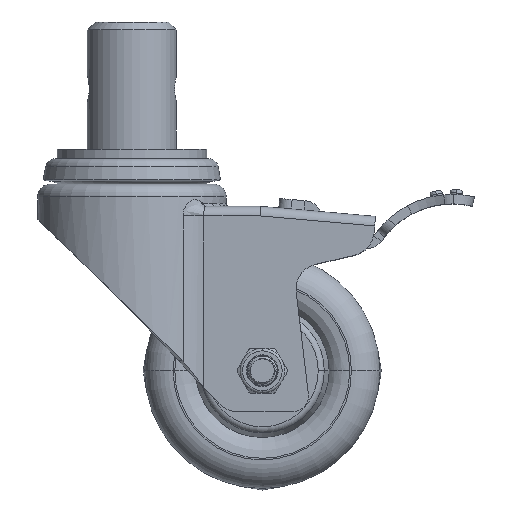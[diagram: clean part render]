
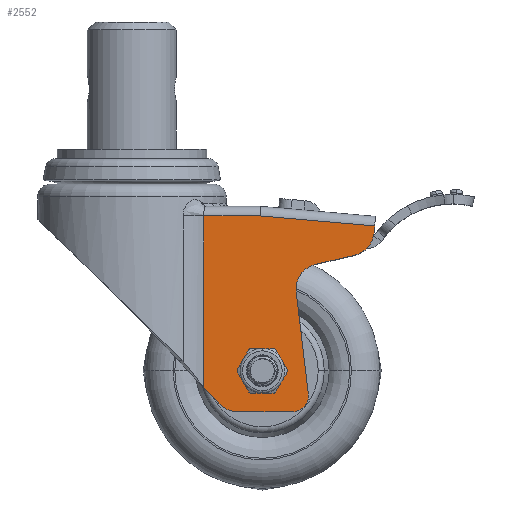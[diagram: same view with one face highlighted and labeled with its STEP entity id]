
A CAD part, top view. The second image highlights one B-rep face of the part: STEP entity #2552.
In plain terms, the highlighted planar face has unit normal (0, 0, 1).
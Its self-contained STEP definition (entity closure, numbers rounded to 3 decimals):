
#518=DIRECTION('',(0.685,-0.729,0.));
#519=VECTOR('',#518,7.024);
#520=CARTESIAN_POINT('',(22.58,-75.723,23.));
#521=LINE('',#520,#519);
#522=DIRECTION('',(0.,-1.,0.));
#523=VECTOR('',#522,53.923);
#524=CARTESIAN_POINT('',(22.58,-21.8,23.));
#525=LINE('',#524,#523);
#526=DIRECTION('',(-1.,0.,0.));
#527=VECTOR('',#526,17.889);
#528=CARTESIAN_POINT('',(40.469,-21.8,23.));
#529=LINE('',#528,#527);
#530=DIRECTION('',(-0.996,0.087,0.));
#531=VECTOR('',#530,36.);
#532=CARTESIAN_POINT('',(76.332,-24.938,23.));
#533=LINE('',#532,#531);
#534=DIRECTION('',(-0.087,-0.996,0.));
#535=VECTOR('',#534,2.157);
#536=CARTESIAN_POINT('',(76.332,-24.938,23.));
#537=LINE('',#536,#535);
#538=CARTESIAN_POINT('',(68.174,-26.389,23.));
#539=DIRECTION('',(0.,0.,1.));
#540=DIRECTION('',(0.225,-0.974,0.));
#541=AXIS2_PLACEMENT_3D('',#538,#539,#540);
#543=DIRECTION('',(-0.974,-0.225,0.));
#544=VECTOR('',#543,12.474);
#545=CARTESIAN_POINT('',(69.974,-34.184,23.));
#546=LINE('',#545,#544);
#547=CARTESIAN_POINT('',(59.619,-44.785,23.));
#548=DIRECTION('',(0.,0.,1.));
#549=DIRECTION('',(-0.225,0.974,0.));
#550=AXIS2_PLACEMENT_3D('',#547,#548,#549);
#552=DIRECTION('',(0.118,-0.993,0.));
#553=VECTOR('',#552,32.274);
#554=CARTESIAN_POINT('',(51.674,-45.726,23.));
#555=LINE('',#554,#553);
#556=CARTESIAN_POINT('',(50.503,-78.363,23.));
#557=DIRECTION('',(0.,0.,1.));
#558=DIRECTION('',(0.,-1.,0.));
#559=AXIS2_PLACEMENT_3D('',#556,#557,#558);
#561=DIRECTION('',(-1.,0.,0.));
#562=VECTOR('',#561,17.282);
#563=CARTESIAN_POINT('',(50.503,-83.363,23.));
#564=LINE('',#563,#562);
#565=CARTESIAN_POINT('',(33.22,-75.363,23.));
#566=DIRECTION('',(0.,0.,1.));
#567=DIRECTION('',(-0.729,-0.685,0.));
#568=AXIS2_PLACEMENT_3D('',#565,#566,#567);
#570=CARTESIAN_POINT('',(41.,-70.5,23.));
#571=DIRECTION('',(0.,0.,1.));
#572=DIRECTION('',(1.,0.,0.));
#573=AXIS2_PLACEMENT_3D('',#570,#571,#572);
#575=CARTESIAN_POINT('',(41.,-70.5,23.));
#576=DIRECTION('',(0.,0.,1.));
#577=DIRECTION('',(-1.,0.,0.));
#578=AXIS2_PLACEMENT_3D('',#575,#576,#577);
#1379=CARTESIAN_POINT('',(40.469,-21.8,23.));
#1380=CARTESIAN_POINT('',(22.58,-21.8,23.));
#1381=VERTEX_POINT('',#1379);
#1382=VERTEX_POINT('',#1380);
#1435=CARTESIAN_POINT('',(76.332,-24.938,23.));
#1436=CARTESIAN_POINT('',(76.144,-27.087,23.));
#1437=VERTEX_POINT('',#1435);
#1438=VERTEX_POINT('',#1436);
#1439=CARTESIAN_POINT('',(69.974,-34.184,23.));
#1440=VERTEX_POINT('',#1439);
#1441=CARTESIAN_POINT('',(57.819,-36.99,23.));
#1442=VERTEX_POINT('',#1441);
#1443=CARTESIAN_POINT('',(51.674,-45.726,23.));
#1444=VERTEX_POINT('',#1443);
#1445=CARTESIAN_POINT('',(55.468,-77.776,23.));
#1446=VERTEX_POINT('',#1445);
#1447=CARTESIAN_POINT('',(50.503,-83.363,23.));
#1448=VERTEX_POINT('',#1447);
#1494=CARTESIAN_POINT('',(22.58,-75.723,23.));
#1495=CARTESIAN_POINT('',(27.39,-80.842,23.));
#1496=VERTEX_POINT('',#1494);
#1497=VERTEX_POINT('',#1495);
#1498=CARTESIAN_POINT('',(33.22,-83.363,23.));
#1499=VERTEX_POINT('',#1498);
#1519=CARTESIAN_POINT('',(46.,-70.5,23.));
#1520=CARTESIAN_POINT('',(36.,-70.5,23.));
#1521=VERTEX_POINT('',#1519);
#1522=VERTEX_POINT('',#1520);
#2517=CARTESIAN_POINT('',(0.,0.,23.));
#2518=DIRECTION('',(0.,0.,1.));
#2519=DIRECTION('',(1.,0.,0.));
#2520=AXIS2_PLACEMENT_3D('',#2517,#2518,#2519);
#2521=PLANE('',#2520);
#2523=ORIENTED_EDGE('',*,*,#2522,.F.);
#2524=ORIENTED_EDGE('',*,*,#2281,.F.);
#2525=ORIENTED_EDGE('',*,*,#2508,.F.);
#2527=ORIENTED_EDGE('',*,*,#2526,.F.);
#2529=ORIENTED_EDGE('',*,*,#2528,.T.);
#2531=ORIENTED_EDGE('',*,*,#2530,.F.);
#2533=ORIENTED_EDGE('',*,*,#2532,.T.);
#2535=ORIENTED_EDGE('',*,*,#2534,.T.);
#2537=ORIENTED_EDGE('',*,*,#2536,.T.);
#2539=ORIENTED_EDGE('',*,*,#2538,.F.);
#2541=ORIENTED_EDGE('',*,*,#2540,.T.);
#2543=ORIENTED_EDGE('',*,*,#2542,.F.);
#2544=EDGE_LOOP('',(#2523,#2524,#2525,#2527,#2529,#2531,#2533,#2535,#2537,#2539,
#2541,#2543));
#2545=FACE_OUTER_BOUND('',#2544,.F.);
#2547=ORIENTED_EDGE('',*,*,#2546,.T.);
#2549=ORIENTED_EDGE('',*,*,#2548,.T.);
#2550=EDGE_LOOP('',(#2547,#2549));
#2551=FACE_BOUND('',#2550,.F.);
#542=CIRCLE('',#541,8.);
#551=CIRCLE('',#550,8.);
#560=CIRCLE('',#559,5.);
#569=CIRCLE('',#568,8.);
#574=CIRCLE('',#573,5.);
#579=CIRCLE('',#578,5.);
#2281=EDGE_CURVE('',#1382,#1496,#525,.T.);
#2508=EDGE_CURVE('',#1381,#1382,#529,.T.);
#2522=EDGE_CURVE('',#1496,#1497,#521,.T.);
#2526=EDGE_CURVE('',#1437,#1381,#533,.T.);
#2528=EDGE_CURVE('',#1437,#1438,#537,.T.);
#2530=EDGE_CURVE('',#1440,#1438,#542,.T.);
#2532=EDGE_CURVE('',#1440,#1442,#546,.T.);
#2534=EDGE_CURVE('',#1442,#1444,#551,.T.);
#2536=EDGE_CURVE('',#1444,#1446,#555,.T.);
#2538=EDGE_CURVE('',#1448,#1446,#560,.T.);
#2540=EDGE_CURVE('',#1448,#1499,#564,.T.);
#2542=EDGE_CURVE('',#1497,#1499,#569,.T.);
#2546=EDGE_CURVE('',#1521,#1522,#574,.T.);
#2548=EDGE_CURVE('',#1522,#1521,#579,.T.);
#2552=ADVANCED_FACE('',(#2545,#2551),#2521,.T.);
